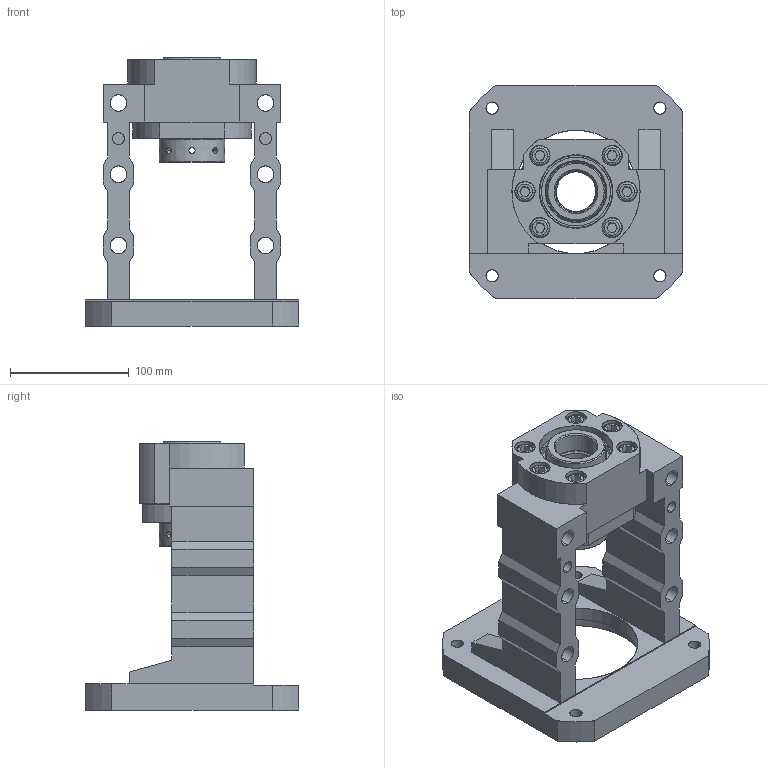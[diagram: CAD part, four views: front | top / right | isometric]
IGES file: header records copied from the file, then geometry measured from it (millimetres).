
Start section: SolidWorks IGES file using analytic representation for surfaces
Bounding box: 180 x 180 x 226 mm (x, y, z)
Surface area: 236825 mm2 (no closed solid volume)
Topology: 0 solids, 0 shells, 352 faces, 6358 edges, 6350 vertices
Faces by surface type: revolution 188, bspline 164
